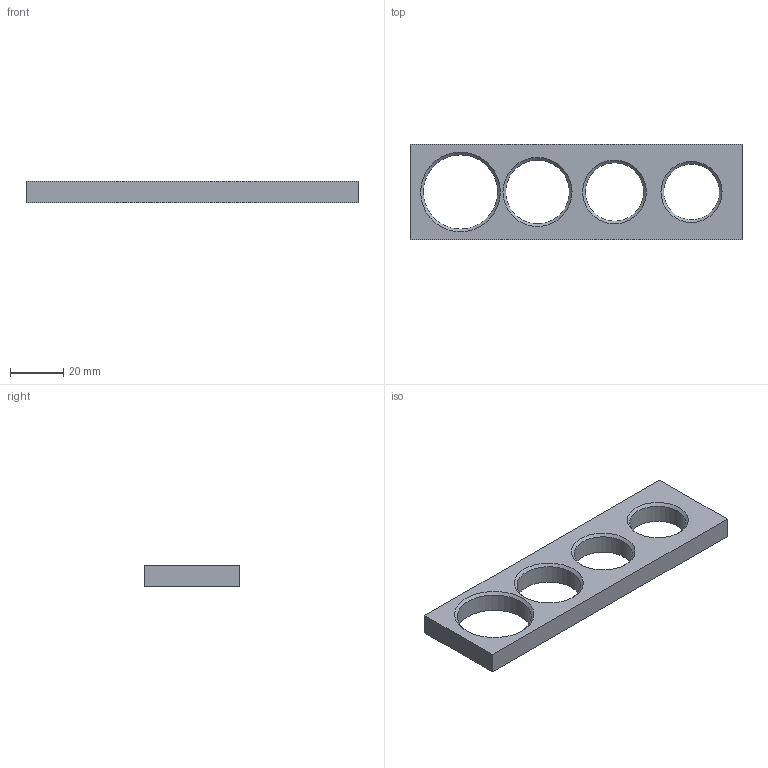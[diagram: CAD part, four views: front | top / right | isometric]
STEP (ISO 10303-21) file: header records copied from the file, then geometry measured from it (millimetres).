
FILE_DESCRIPTION(('Open CASCADE Model'),'2;1');
FILE_NAME('Open CASCADE Shape Model','2026-10-21T17:23:49',('Author'),( 'Open CASCADE'),'Open CASCADE STEP processor 7.9','Open CASCADE 7.9' ,'Unknown');
FILE_SCHEMA(('AUTOMOTIVE_DESIGN { 1 0 10303 214 1 1 1 1 }'));
Length unit declared in the file: millimetre
Products named in the file (1): Open CASCADE STEP translator 7.9 21
Bounding box: 125 x 36 x 8 mm (x, y, z)
Volume: 21489.5 mm3; surface area: 10204.7 mm2
Topology: 1 solids, 1 shells, 14 faces, 32 edges, 20 vertices
Faces by surface type: plane 6, cone 4, cylinder 4
Full cylindrical faces by diameter (mm): 21 x1, 22 x1, 24 x1, 28 x1
Entity records: 850 total; most frequent: CARTESIAN_POINT 155, DIRECTION 134, LINE 76, VECTOR 76, ORIENTED_EDGE 64, PCURVE 64, DEFINITIONAL_REPRESENTATION 64, EDGE_CURVE 32
